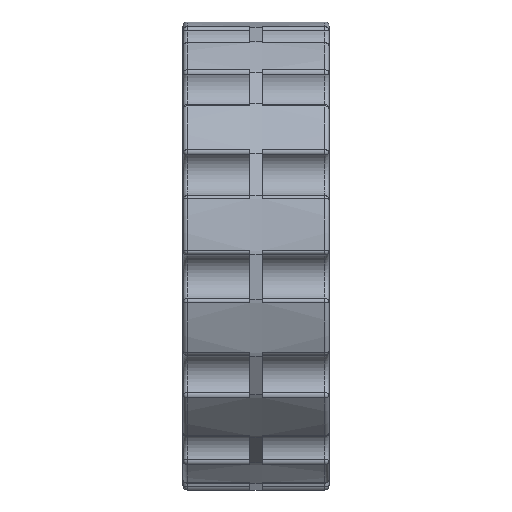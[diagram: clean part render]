
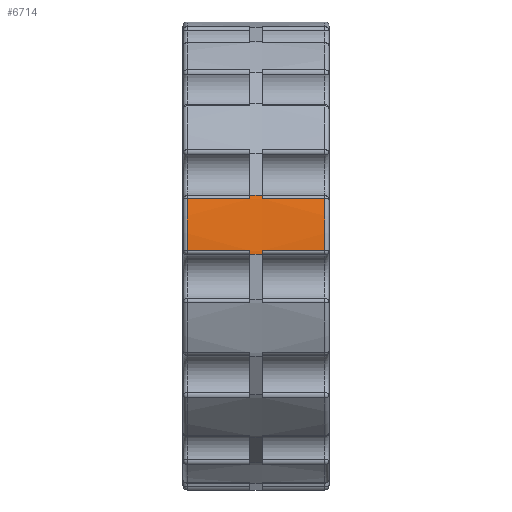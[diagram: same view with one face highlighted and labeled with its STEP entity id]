
A CAD part, left-side view. The second image highlights one B-rep face of the part: STEP entity #6714.
In plain terms, the highlighted cylindrical face has radius 56.1 mm (diameter 112.2 mm), a partial arc.
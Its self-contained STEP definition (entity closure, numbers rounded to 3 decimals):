
#408=LINE('',#10319,#976);
#409=LINE('',#10324,#977);
#410=LINE('',#10328,#978);
#411=LINE('',#10332,#979);
#412=LINE('',#10336,#980);
#413=LINE('',#10340,#981);
#976=VECTOR('',#8080,1000.);
#977=VECTOR('',#8083,1000.);
#978=VECTOR('',#8086,1000.);
#979=VECTOR('',#8089,1000.);
#980=VECTOR('',#8092,1000.);
#981=VECTOR('',#8095,1000.);
#1578=ORIENTED_EDGE('',*,*,#3638,.T.);
#1579=ORIENTED_EDGE('',*,*,#3639,.T.);
#1580=ORIENTED_EDGE('',*,*,#3640,.T.);
#1581=ORIENTED_EDGE('',*,*,#3641,.T.);
#1582=ORIENTED_EDGE('',*,*,#3642,.T.);
#1583=ORIENTED_EDGE('',*,*,#3643,.T.);
#1584=ORIENTED_EDGE('',*,*,#3644,.F.);
#1585=ORIENTED_EDGE('',*,*,#3645,.T.);
#1586=ORIENTED_EDGE('',*,*,#3646,.T.);
#1587=ORIENTED_EDGE('',*,*,#3647,.T.);
#1588=ORIENTED_EDGE('',*,*,#3648,.T.);
#1589=ORIENTED_EDGE('',*,*,#3649,.T.);
#3638=EDGE_CURVE('',#4666,#4667,#408,.T.);
#3639=EDGE_CURVE('',#4667,#4668,#5288,.F.);
#3640=EDGE_CURVE('',#4668,#4669,#409,.T.);
#3641=EDGE_CURVE('',#4669,#4670,#5289,.F.);
#3642=EDGE_CURVE('',#4670,#4671,#410,.F.);
#3643=EDGE_CURVE('',#4671,#4672,#5290,.F.);
#3644=EDGE_CURVE('',#4673,#4672,#411,.T.);
#3645=EDGE_CURVE('',#4673,#4674,#5291,.T.);
#3646=EDGE_CURVE('',#4674,#4675,#412,.F.);
#3647=EDGE_CURVE('',#4675,#4676,#5292,.T.);
#3648=EDGE_CURVE('',#4676,#4677,#413,.T.);
#3649=EDGE_CURVE('',#4677,#4666,#5293,.T.);
#4666=VERTEX_POINT('',#10320);
#4667=VERTEX_POINT('',#10321);
#4668=VERTEX_POINT('',#10323);
#4669=VERTEX_POINT('',#10325);
#4670=VERTEX_POINT('',#10327);
#4671=VERTEX_POINT('',#10329);
#4672=VERTEX_POINT('',#10331);
#4673=VERTEX_POINT('',#10333);
#4674=VERTEX_POINT('',#10335);
#4675=VERTEX_POINT('',#10337);
#4676=VERTEX_POINT('',#10339);
#4677=VERTEX_POINT('',#10341);
#5288=CIRCLE('',#7187,56.1);
#5289=CIRCLE('',#7188,56.1);
#5290=CIRCLE('',#7189,56.1);
#5291=CIRCLE('',#7190,56.1);
#5292=CIRCLE('',#7191,56.1);
#5293=CIRCLE('',#7192,56.1);
#5691=EDGE_LOOP('',(#1578,#1579,#1580,#1581,#1582,#1583,#1584,#1585,#1586,
#1587,#1588,#1589));
#6153=FACE_BOUND('',#5691,.T.);
#6611=CYLINDRICAL_SURFACE('',#7186,56.1);
#6714=ADVANCED_FACE('',(#6153),#6611,.T.);
#7186=AXIS2_PLACEMENT_3D('',#10318,#8078,#8079);
#7187=AXIS2_PLACEMENT_3D('',#10322,#8081,#8082);
#7188=AXIS2_PLACEMENT_3D('',#10326,#8084,#8085);
#7189=AXIS2_PLACEMENT_3D('',#10330,#8087,#8088);
#7190=AXIS2_PLACEMENT_3D('',#10334,#8090,#8091);
#7191=AXIS2_PLACEMENT_3D('',#10338,#8093,#8094);
#7192=AXIS2_PLACEMENT_3D('',#10342,#8096,#8097);
#8078=DIRECTION('',(0.,1.,0.));
#8079=DIRECTION('',(0.,0.,1.));
#8080=DIRECTION('',(0.,1.,0.));
#8081=DIRECTION('',(0.,1.,0.));
#8082=DIRECTION('',(0.,0.,1.));
#8083=DIRECTION('',(0.,1.,0.));
#8084=DIRECTION('',(0.,1.,0.));
#8085=DIRECTION('',(0.,0.,1.));
#8086=DIRECTION('',(0.,1.,0.));
#8087=DIRECTION('',(0.,1.,0.));
#8088=DIRECTION('',(0.,0.,1.));
#8089=DIRECTION('',(0.,1.,0.));
#8090=DIRECTION('',(0.,1.,0.));
#8091=DIRECTION('',(0.,0.,1.));
#8092=DIRECTION('',(0.,1.,0.));
#8093=DIRECTION('',(0.,1.,0.));
#8094=DIRECTION('',(0.,0.,1.));
#8095=DIRECTION('',(0.,1.,0.));
#8096=DIRECTION('',(0.,1.,0.));
#8097=DIRECTION('',(0.,0.,1.));
#10318=CARTESIAN_POINT('',(0.,-17.5,0.));
#10319=CARTESIAN_POINT('',(-54.178,-1.5,14.557));
#10320=CARTESIAN_POINT('',(-54.178,-1.5,14.557));
#10321=CARTESIAN_POINT('',(-54.178,1.5,14.557));
#10322=CARTESIAN_POINT('',(0.,1.5,0.));
#10323=CARTESIAN_POINT('',(-54.397,1.5,13.72));
#10324=CARTESIAN_POINT('',(-54.397,-17.5,13.72));
#10325=CARTESIAN_POINT('',(-54.397,16.5,13.72));
#10326=CARTESIAN_POINT('',(0.,16.5,0.));
#10327=CARTESIAN_POINT('',(-56.086,16.5,1.246));
#10328=CARTESIAN_POINT('',(-56.086,-17.5,1.246));
#10329=CARTESIAN_POINT('',(-56.086,1.5,1.246));
#10330=CARTESIAN_POINT('',(0.,1.5,0.));
#10331=CARTESIAN_POINT('',(-56.099,1.5,0.381));
#10332=CARTESIAN_POINT('',(-56.099,-1.5,0.381));
#10333=CARTESIAN_POINT('',(-56.099,-1.5,0.381));
#10334=CARTESIAN_POINT('',(0.,-1.5,0.));
#10335=CARTESIAN_POINT('',(-56.086,-1.5,1.246));
#10336=CARTESIAN_POINT('',(-56.086,-17.5,1.246));
#10337=CARTESIAN_POINT('',(-56.086,-16.5,1.246));
#10338=CARTESIAN_POINT('',(0.,-16.5,0.));
#10339=CARTESIAN_POINT('',(-54.397,-16.5,13.72));
#10340=CARTESIAN_POINT('',(-54.397,-17.5,13.72));
#10341=CARTESIAN_POINT('',(-54.397,-1.5,13.72));
#10342=CARTESIAN_POINT('',(0.,-1.5,0.));
